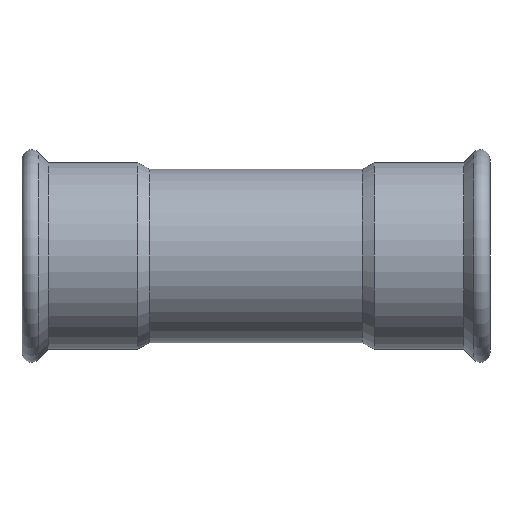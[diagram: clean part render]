
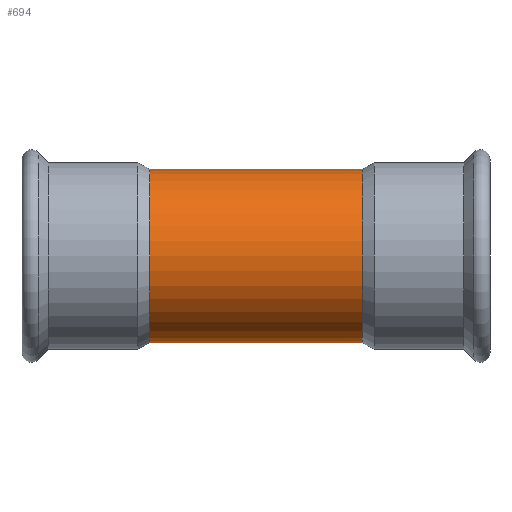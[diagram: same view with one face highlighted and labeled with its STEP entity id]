
A CAD part, front view. The second image highlights one B-rep face of the part: STEP entity #694.
In plain terms, the highlighted cylindrical face has radius 26.7 mm (diameter 53.4 mm), a partial arc.
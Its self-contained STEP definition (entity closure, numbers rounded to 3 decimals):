
#38 = VECTOR ( 'NONE', #2235, 1000. ) ;
#694 = ADVANCED_FACE ( 'NONE', ( #1116 ), #5835, .T. ) ;
#991 = CARTESIAN_POINT ( 'NONE',  ( -32.626, 0., 26.7 ) ) ;
#1116 = FACE_OUTER_BOUND ( 'NONE', #1246, .T. ) ;
#1246 = EDGE_LOOP ( 'NONE', ( #6314, #6466, #6371, #1942 ) ) ;
#1349 = DIRECTION ( 'NONE',  ( -1., 0., 0. ) ) ;
#1588 = CARTESIAN_POINT ( 'NONE',  ( 0., 0., 26.7 ) ) ;
#1942 = ORIENTED_EDGE ( 'NONE', *, *, #2224, .F. ) ;
#2010 = EDGE_CURVE ( 'NONE', #3126, #2470, #3513, .T. ) ;
#2224 = EDGE_CURVE ( 'NONE', #2352, #6814, #2644, .T. ) ;
#2235 = DIRECTION ( 'NONE',  ( -1., 0., 0. ) ) ;
#2352 = VERTEX_POINT ( 'NONE', #3599 ) ;
#2397 = CARTESIAN_POINT ( 'NONE',  ( 32.626, 0., -26.7 ) ) ;
#2470 = VERTEX_POINT ( 'NONE', #4383 ) ;
#2644 = CIRCLE ( 'NONE', #5320, 26.7 ) ;
#2726 = CARTESIAN_POINT ( 'NONE',  ( 0., 0., 0. ) ) ;
#3126 = VERTEX_POINT ( 'NONE', #2397 ) ;
#3253 = LINE ( 'NONE', #4375, #38 ) ;
#3474 = EDGE_CURVE ( 'NONE', #2470, #6814, #6375, .T. ) ;
#3484 = VECTOR ( 'NONE', #4167, 1000. ) ;
#3513 = CIRCLE ( 'NONE', #5875, 26.7 ) ;
#3599 = CARTESIAN_POINT ( 'NONE',  ( -32.626, 0., -26.7 ) ) ;
#4167 = DIRECTION ( 'NONE',  ( -1., 0., 0. ) ) ;
#4254 = DIRECTION ( 'NONE',  ( 0., 0., 1. ) ) ;
#4375 = CARTESIAN_POINT ( 'NONE',  ( 0., 0., -26.7 ) ) ;
#4383 = CARTESIAN_POINT ( 'NONE',  ( 32.626, 0., 26.7 ) ) ;
#4577 = EDGE_CURVE ( 'NONE', #3126, #2352, #3253, .T. ) ;
#4848 = DIRECTION ( 'NONE',  ( -1., 0., 0. ) ) ;
#5063 = DIRECTION ( 'NONE',  ( 0., 0., 1. ) ) ;
#5320 = AXIS2_PLACEMENT_3D ( 'NONE', #6412, #5830, #5894 ) ;
#5830 = DIRECTION ( 'NONE',  ( -1., 0., 0. ) ) ;
#5835 = CYLINDRICAL_SURFACE ( 'NONE', #5864, 26.7 ) ;
#5864 = AXIS2_PLACEMENT_3D ( 'NONE', #2726, #4848, #4254 ) ;
#5875 = AXIS2_PLACEMENT_3D ( 'NONE', #6627, #1349, #5063 ) ;
#5894 = DIRECTION ( 'NONE',  ( 0., 0., 1. ) ) ;
#6314 = ORIENTED_EDGE ( 'NONE', *, *, #4577, .F. ) ;
#6371 = ORIENTED_EDGE ( 'NONE', *, *, #3474, .T. ) ;
#6375 = LINE ( 'NONE', #1588, #3484 ) ;
#6412 = CARTESIAN_POINT ( 'NONE',  ( -32.626, 0., 0. ) ) ;
#6466 = ORIENTED_EDGE ( 'NONE', *, *, #2010, .T. ) ;
#6627 = CARTESIAN_POINT ( 'NONE',  ( 32.626, 0., 0. ) ) ;
#6814 = VERTEX_POINT ( 'NONE', #991 ) ;
